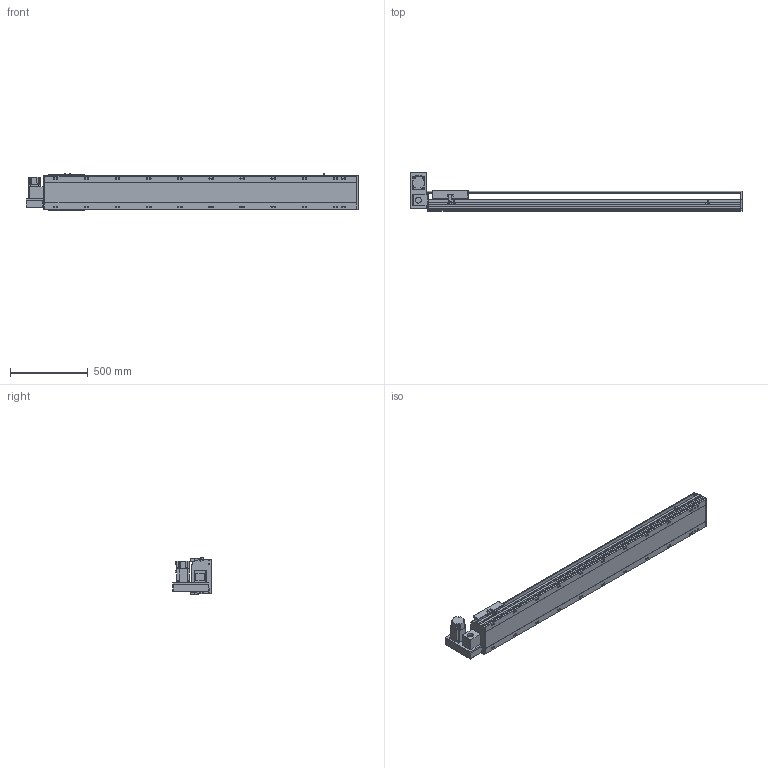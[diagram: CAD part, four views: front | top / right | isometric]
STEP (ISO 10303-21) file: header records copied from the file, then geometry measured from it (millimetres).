
FILE_DESCRIPTION(/* description */ ('STEP AP214'),/* implementation_level */ '2;1');
FILE_NAME(/* name */ 'PBS220-P40-S1650-LU-T75-C1-N(0)',/* time_stamp */ '2022-06-13T02:30:35+02:00',/* author */ ('License CC BY-ND 4.0'),/* organization */ ('CADENAS'),/* preprocessor_version */ 'ST-DEVELOPER v18.102',/* originating_system */ 'PARTsolutions',/* authorisation */ ' ');
FILE_SCHEMA (('AUTOMOTIVE_DESIGN {1 0 10303 214 3 1 1}'));
Length unit declared in the file: millimetre
Products named in the file (7): PBS220-P40-S1650-LU-T75-C1-N(0); PBS220_sensor; PBS220_plant; PBS220_sliser; T75-p1; PBS220T-LU_motors; PBS220-S1650()_body
Assembly tree (8 placements, depth 2):
  PBS220-P40-S1650-LU-T75-C1-N(0)
    PBS220_sensor  x3
    PBS220_plant
    PBS220_sliser
    T75-p1
    PBS220T-LU_motors
    PBS220-S1650()_body
Bounding box: 2134 x 247 x 238.5 mm (x, y, z)
Volume: 30205783.2 mm3; surface area: 2846956.3 mm2
Topology: 8 solids, 8 shells, 950 faces, 2480 edges, 1612 vertices
Faces by surface type: plane 610, cylinder 294, cone 46
Full cylindrical faces by diameter (mm): 2.013 x4, 4.5 x14, 4.917 x4, 6 x7, 6.647 x8, 8 x10, 8.376 x22, 8.5 x22, 10 x6, 14 x22, 38 x2, 40 x1, 70 x1
Entity records: 26565 total; most frequent: CARTESIAN_POINT 4690, DIRECTION 4617, ORIENTED_EDGE 4214, EDGE_CURVE 2107, AXIS2_PLACEMENT_3D 1633, VERTEX_POINT 1464, LINE 1351, VECTOR 1351
